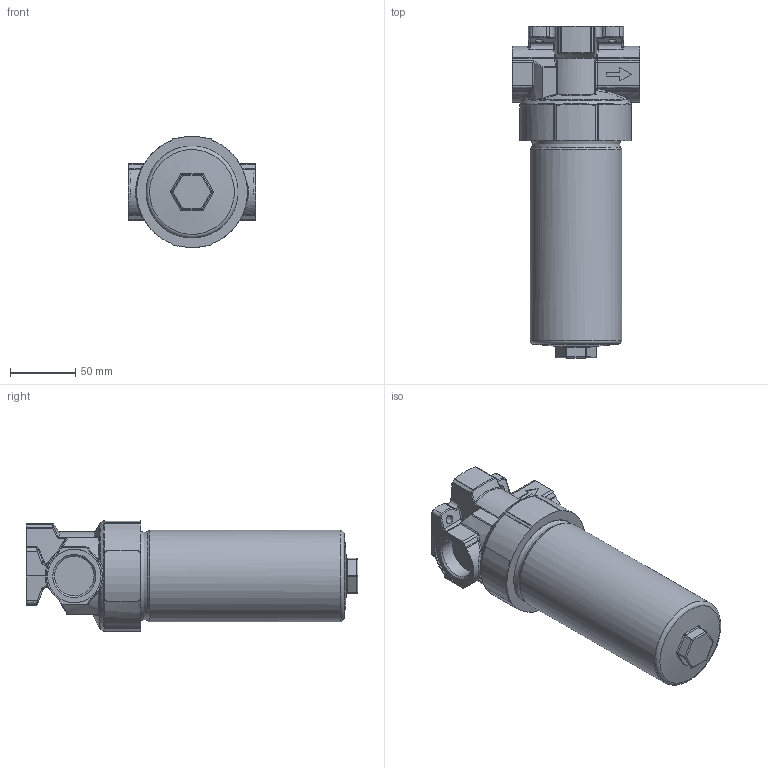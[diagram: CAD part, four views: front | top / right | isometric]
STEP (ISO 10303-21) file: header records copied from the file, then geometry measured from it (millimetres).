
FILE_DESCRIPTION((''),'2;1');
FILE_NAME('U:\Users\r.stiegele\D112-186(18975200).stp', '2014-03-10T10:44:55',('User'),('SDRC'),'I-DEAS Master Series 9','UNIX', 'Yes');
FILE_SCHEMA(('AUTOMOTIVE_DESIGN { 1 0 10303 214 1 1 1 1 }'));
Length unit declared in the file: millimetre
Products named in the file (1): 18975200(318609)
Bounding box: 98 x 254.5 x 84.95 mm (x, y, z)
Volume: 994270 mm3; surface area: 79767.1 mm2
Topology: 1 solids, 4 shells, 388 faces, 945 edges, 548 vertices
Faces by surface type: bspline 388
Entity records: 16148 total; most frequent: CARTESIAN_POINT 10859, ORIENTED_EDGE 1844, EDGE_CURVE 922, B_SPLINE_CURVE_WITH_KNOTS 581, VERTEX_POINT 548, EDGE_LOOP 402, FACE_OUTER_BOUND 388, ADVANCED_FACE 388
